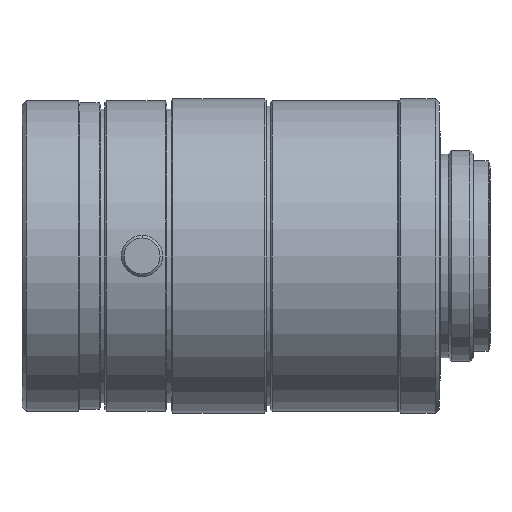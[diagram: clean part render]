
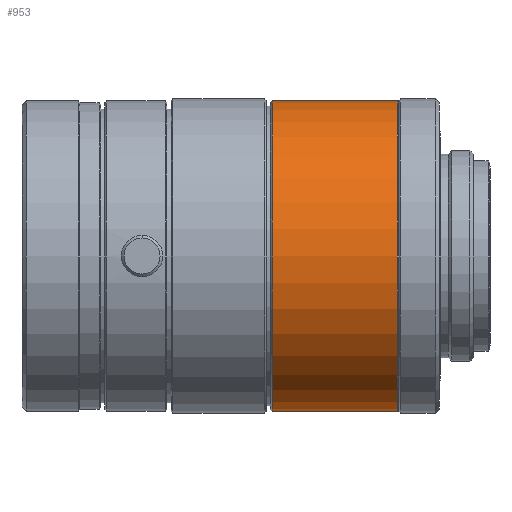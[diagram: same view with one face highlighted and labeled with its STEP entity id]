
A CAD part, front view. The second image highlights one B-rep face of the part: STEP entity #953.
In plain terms, the highlighted cylindrical face has radius 18.75 mm (diameter 37.5 mm), a partial arc.
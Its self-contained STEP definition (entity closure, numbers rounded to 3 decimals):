
#89 = ORIENTED_EDGE ( 'NONE', *, *, #3008, .T. ) ;
#126 = FACE_OUTER_BOUND ( 'NONE', #1282, .T. ) ;
#136 = ORIENTED_EDGE ( 'NONE', *, *, #2597, .F. ) ;
#414 = CARTESIAN_POINT ( 'NONE',  ( -22.726, 0., 0. ) ) ;
#547 = DIRECTION ( 'NONE',  ( 1., 0., 0. ) ) ;
#570 = CARTESIAN_POINT ( 'NONE',  ( -37.826, 0., -18.75 ) ) ;
#594 = VECTOR ( 'NONE', #3456, 1000. ) ;
#626 = CIRCLE ( 'NONE', #794, 18.75 ) ;
#794 = AXIS2_PLACEMENT_3D ( 'NONE', #414, #1472, #1737 ) ;
#953 = ADVANCED_FACE ( 'NONE', ( #126 ), #2905, .T. ) ;
#991 = CARTESIAN_POINT ( 'NONE',  ( -37.826, 0., 18.75 ) ) ;
#1000 = CIRCLE ( 'NONE', #1257, 18.75 ) ;
#1107 = CARTESIAN_POINT ( 'NONE',  ( -22.726, 0., -18.75 ) ) ;
#1108 = ORIENTED_EDGE ( 'NONE', *, *, #2468, .F. ) ;
#1231 = DIRECTION ( 'NONE',  ( 1., 0., 0. ) ) ;
#1257 = AXIS2_PLACEMENT_3D ( 'NONE', #3156, #1231, #2058 ) ;
#1282 = EDGE_LOOP ( 'NONE', ( #136, #2163, #89, #1108 ) ) ;
#1306 = LINE ( 'NONE', #1608, #594 ) ;
#1472 = DIRECTION ( 'NONE',  ( 1., 0., 0. ) ) ;
#1496 = CARTESIAN_POINT ( 'NONE',  ( -22.726, 0., 18.75 ) ) ;
#1507 = DIRECTION ( 'NONE',  ( 1., 0., 0. ) ) ;
#1608 = CARTESIAN_POINT ( 'NONE',  ( -0.026, 0., -18.75 ) ) ;
#1703 = VERTEX_POINT ( 'NONE', #1496 ) ;
#1737 = DIRECTION ( 'NONE',  ( 0., 0., -1. ) ) ;
#1830 = VERTEX_POINT ( 'NONE', #991 ) ;
#1923 = EDGE_CURVE ( 'NONE', #1830, #3034, #1000, .T. ) ;
#2058 = DIRECTION ( 'NONE',  ( 0., 0., -1. ) ) ;
#2163 = ORIENTED_EDGE ( 'NONE', *, *, #1923, .T. ) ;
#2261 = LINE ( 'NONE', #2848, #2811 ) ;
#2310 = VERTEX_POINT ( 'NONE', #1107 ) ;
#2468 = EDGE_CURVE ( 'NONE', #1703, #2310, #626, .T. ) ;
#2597 = EDGE_CURVE ( 'NONE', #1830, #1703, #2261, .T. ) ;
#2810 = CARTESIAN_POINT ( 'NONE',  ( -0.026, 0., 0. ) ) ;
#2811 = VECTOR ( 'NONE', #1507, 1000. ) ;
#2848 = CARTESIAN_POINT ( 'NONE',  ( -0.026, 0., 18.75 ) ) ;
#2905 = CYLINDRICAL_SURFACE ( 'NONE', #3327, 18.75 ) ;
#2958 = DIRECTION ( 'NONE',  ( 0., 0., -1. ) ) ;
#3008 = EDGE_CURVE ( 'NONE', #3034, #2310, #1306, .T. ) ;
#3034 = VERTEX_POINT ( 'NONE', #570 ) ;
#3156 = CARTESIAN_POINT ( 'NONE',  ( -37.826, 0., 0. ) ) ;
#3327 = AXIS2_PLACEMENT_3D ( 'NONE', #2810, #547, #2958 ) ;
#3456 = DIRECTION ( 'NONE',  ( 1., 0., 0. ) ) ;
